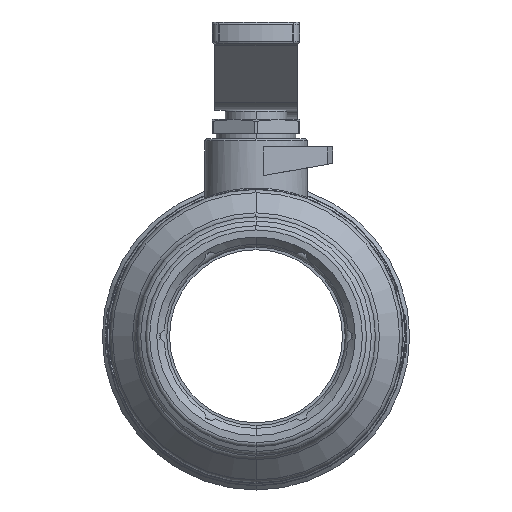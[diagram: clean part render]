
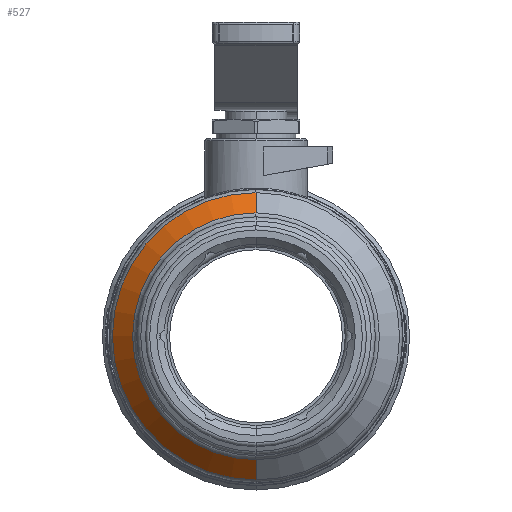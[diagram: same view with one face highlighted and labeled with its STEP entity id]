
A CAD part, left-side view. The second image highlights one B-rep face of the part: STEP entity #527.
In plain terms, the highlighted conical face has half-angle 45 degrees and reference radius 1.917 mm.
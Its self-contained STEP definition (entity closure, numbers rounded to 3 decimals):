
#435 = TOROIDAL_SURFACE('',#436,1.911,0.197);
#436 = AXIS2_PLACEMENT_3D('',#437,#438,#439);
#437 = CARTESIAN_POINT('',(84.657,-17.395,-29.191));
#438 = DIRECTION('',(-1.,0.,0.));
#439 = DIRECTION('',(0.,-0.005,1.));
#453 = VERTEX_POINT('',#454);
#454 = CARTESIAN_POINT('',(84.796,-17.395,-30.962));
#478 = VERTEX_POINT('',#479);
#479 = CARTESIAN_POINT('',(84.796,-17.395,-27.419));
#501 = EDGE_CURVE('',#478,#453,#502,.T.);
#502 = SURFACE_CURVE('',#503,(#508,#515),.PCURVE_S1.);
#503 = CIRCLE('',#504,1.772);
#504 = AXIS2_PLACEMENT_3D('',#505,#506,#507);
#505 = CARTESIAN_POINT('',(84.796,-17.395,-29.191));
#506 = DIRECTION('',(-1.,0.,0.));
#507 = DIRECTION('',(0.,0.,1.));
#508 = PCURVE('',#435,#509);
#509 = DEFINITIONAL_REPRESENTATION('',(#510),#514);
#510 = LINE('',#511,#512);
#511 = CARTESIAN_POINT('',(0.005,3.927));
#512 = VECTOR('',#513,1.);
#513 = DIRECTION('',(1.,0.));
#514 = ( GEOMETRIC_REPRESENTATION_CONTEXT(2) 
PARAMETRIC_REPRESENTATION_CONTEXT() REPRESENTATION_CONTEXT('2D SPACE',''
  ) );
#515 = PCURVE('',#516,#521);
#516 = CONICAL_SURFACE('',#517,1.917,0.785);
#517 = AXIS2_PLACEMENT_3D('',#518,#519,#520);
#518 = CARTESIAN_POINT('',(84.942,-17.395,-29.191));
#519 = DIRECTION('',(1.,0.,0.));
#520 = DIRECTION('',(0.,0.,-1.));
#521 = DEFINITIONAL_REPRESENTATION('',(#522),#526);
#522 = LINE('',#523,#524);
#523 = CARTESIAN_POINT('',(3.142,-0.145));
#524 = VECTOR('',#525,1.);
#525 = DIRECTION('',(-1.,0.));
#526 = ( GEOMETRIC_REPRESENTATION_CONTEXT(2) 
PARAMETRIC_REPRESENTATION_CONTEXT() REPRESENTATION_CONTEXT('2D SPACE',''
  ) );
#527 = ADVANCED_FACE('',(#528),#516,.T.);
#528 = FACE_BOUND('',#529,.T.);
#529 = EDGE_LOOP('',(#530,#558,#559,#582));
#530 = ORIENTED_EDGE('',*,*,#531,.F.);
#531 = EDGE_CURVE('',#453,#532,#534,.T.);
#532 = VERTEX_POINT('',#533);
#533 = CARTESIAN_POINT('',(85.087,-17.395,-31.253));
#534 = SURFACE_CURVE('',#535,(#539,#546),.PCURVE_S1.);
#535 = LINE('',#536,#537);
#536 = CARTESIAN_POINT('',(84.796,-17.395,-30.962));
#537 = VECTOR('',#538,1.);
#538 = DIRECTION('',(0.707,0.,-0.707)
  );
#539 = PCURVE('',#516,#540);
#540 = DEFINITIONAL_REPRESENTATION('',(#541),#545);
#541 = LINE('',#542,#543);
#542 = CARTESIAN_POINT('',(0.,-0.145));
#543 = VECTOR('',#544,1.);
#544 = DIRECTION('',(0.,1.));
#545 = ( GEOMETRIC_REPRESENTATION_CONTEXT(2) 
PARAMETRIC_REPRESENTATION_CONTEXT() REPRESENTATION_CONTEXT('2D SPACE',''
  ) );
#546 = PCURVE('',#547,#552);
#547 = CONICAL_SURFACE('',#548,1.917,0.785);
#548 = AXIS2_PLACEMENT_3D('',#549,#550,#551);
#549 = CARTESIAN_POINT('',(84.942,-17.395,-29.191));
#550 = DIRECTION('',(1.,0.,0.));
#551 = DIRECTION('',(0.,0.,-1.));
#552 = DEFINITIONAL_REPRESENTATION('',(#553),#557);
#553 = LINE('',#554,#555);
#554 = CARTESIAN_POINT('',(6.283,-0.145));
#555 = VECTOR('',#556,1.);
#556 = DIRECTION('',(0.,1.));
#557 = ( GEOMETRIC_REPRESENTATION_CONTEXT(2) 
PARAMETRIC_REPRESENTATION_CONTEXT() REPRESENTATION_CONTEXT('2D SPACE',''
  ) );
#558 = ORIENTED_EDGE('',*,*,#501,.F.);
#559 = ORIENTED_EDGE('',*,*,#560,.T.);
#560 = EDGE_CURVE('',#478,#561,#563,.T.);
#561 = VERTEX_POINT('',#562);
#562 = CARTESIAN_POINT('',(85.087,-17.395,-27.129));
#563 = SURFACE_CURVE('',#564,(#568,#575),.PCURVE_S1.);
#564 = LINE('',#565,#566);
#565 = CARTESIAN_POINT('',(84.796,-17.395,-27.419));
#566 = VECTOR('',#567,1.);
#567 = DIRECTION('',(0.707,0.,0.707)
  );
#568 = PCURVE('',#516,#569);
#569 = DEFINITIONAL_REPRESENTATION('',(#570),#574);
#570 = LINE('',#571,#572);
#571 = CARTESIAN_POINT('',(3.142,-0.145));
#572 = VECTOR('',#573,1.);
#573 = DIRECTION('',(0.,1.));
#574 = ( GEOMETRIC_REPRESENTATION_CONTEXT(2) 
PARAMETRIC_REPRESENTATION_CONTEXT() REPRESENTATION_CONTEXT('2D SPACE',''
  ) );
#575 = PCURVE('',#547,#576);
#576 = DEFINITIONAL_REPRESENTATION('',(#577),#581);
#577 = LINE('',#578,#579);
#578 = CARTESIAN_POINT('',(3.142,-0.145));
#579 = VECTOR('',#580,1.);
#580 = DIRECTION('',(0.,1.));
#581 = ( GEOMETRIC_REPRESENTATION_CONTEXT(2) 
PARAMETRIC_REPRESENTATION_CONTEXT() REPRESENTATION_CONTEXT('2D SPACE',''
  ) );
#582 = ORIENTED_EDGE('',*,*,#583,.F.);
#583 = EDGE_CURVE('',#532,#561,#584,.T.);
#584 = SURFACE_CURVE('',#585,(#590,#597),.PCURVE_S1.);
#585 = CIRCLE('',#586,2.062);
#586 = AXIS2_PLACEMENT_3D('',#587,#588,#589);
#587 = CARTESIAN_POINT('',(85.087,-17.395,-29.191));
#588 = DIRECTION('',(1.,0.,0.));
#589 = DIRECTION('',(0.,0.,-1.));
#590 = PCURVE('',#516,#591);
#591 = DEFINITIONAL_REPRESENTATION('',(#592),#596);
#592 = LINE('',#593,#594);
#593 = CARTESIAN_POINT('',(0.,0.145));
#594 = VECTOR('',#595,1.);
#595 = DIRECTION('',(1.,0.));
#596 = ( GEOMETRIC_REPRESENTATION_CONTEXT(2) 
PARAMETRIC_REPRESENTATION_CONTEXT() REPRESENTATION_CONTEXT('2D SPACE',''
  ) );
#597 = PCURVE('',#598,#603);
#598 = TOROIDAL_SURFACE('',#599,1.95,0.158);
#599 = AXIS2_PLACEMENT_3D('',#600,#601,#602);
#600 = CARTESIAN_POINT('',(85.198,-17.395,-29.191));
#601 = DIRECTION('',(-1.,0.,0.));
#602 = DIRECTION('',(-0.,-0.004,-1.));
#603 = DEFINITIONAL_REPRESENTATION('',(#604),#608);
#604 = LINE('',#605,#606);
#605 = CARTESIAN_POINT('',(6.279,0.785));
#606 = VECTOR('',#607,1.);
#607 = DIRECTION('',(-1.,0.));
#608 = ( GEOMETRIC_REPRESENTATION_CONTEXT(2) 
PARAMETRIC_REPRESENTATION_CONTEXT() REPRESENTATION_CONTEXT('2D SPACE',''
  ) );
